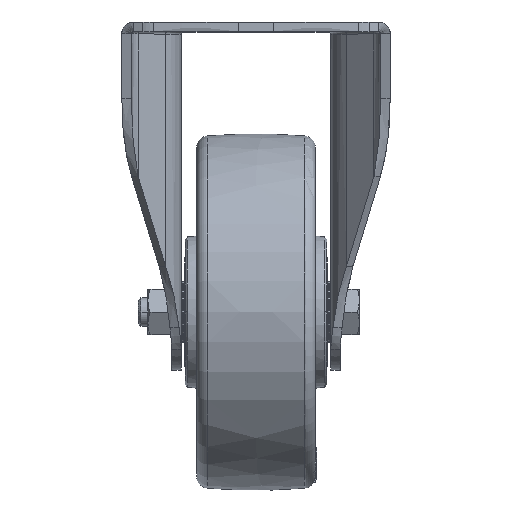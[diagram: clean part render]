
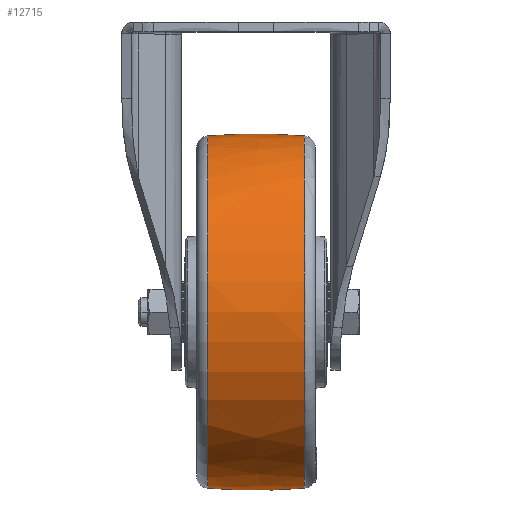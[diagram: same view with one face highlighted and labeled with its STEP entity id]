
A CAD part, top view. The second image highlights one B-rep face of the part: STEP entity #12715.
In plain terms, the highlighted free-form (B-spline) face has degree [3, 3] with [7, 4] control points.
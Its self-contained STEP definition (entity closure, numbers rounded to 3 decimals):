
#84 = CARTESIAN_POINT ( 'NONE',  ( 20.408, 0., 0. ) ) ;
#1518 = CARTESIAN_POINT ( 'NONE',  ( -7.091, -75.153, 4.728 ) ) ;
#2965 = VERTEX_POINT ( 'NONE', #3816 ) ;
#3567 = CARTESIAN_POINT ( 'NONE',  ( 7.091, 75.153, 4.728 ) ) ;
#3734 = ORIENTED_EDGE ( 'NONE', *, *, #24709, .T. ) ;
#3816 = CARTESIAN_POINT ( 'NONE',  ( -20.408, -74.166, 0. ) ) ;
#4803 = EDGE_CURVE ( 'NONE', #2965, #25546, #32110, .T. ) ;
#5018 = DIRECTION ( 'NONE',  ( 0., 0., 1. ) ) ;
#6287 = DIRECTION ( 'NONE',  ( 0.082, -0.997, 0. ) ) ;
#6961 = CARTESIAN_POINT ( 'NONE',  ( -21.223, -45.6, -74.098 ) ) ;
#7235 = EDGE_CURVE ( 'NONE', #34531, #45149, #14606, .T. ) ;
#7454 = CARTESIAN_POINT ( 'NONE',  ( 7.091, -46.34, -75.302 ) ) ;
#8607 = AXIS2_PLACEMENT_3D ( 'NONE', #26513, #5018, #59730 ) ;
#8640 = CARTESIAN_POINT ( 'NONE',  ( -7.091, 78.063, -41.521 ) ) ;
#8879 = CARTESIAN_POINT ( 'NONE',  ( 21.223, 76.815, -40.857 ) ) ;
#12475 = CARTESIAN_POINT ( 'NONE',  ( 7.091, -75.153, 4.728 ) ) ;
#12715 = ADVANCED_FACE ( 'NONE', ( #29897 ), #55349, .T. ) ;
#12937 = CARTESIAN_POINT ( 'NONE',  ( -21.223, 45.6, -74.098 ) ) ;
#14606 = CIRCLE ( 'NONE', #29390, 74.166 ) ;
#17499 = CARTESIAN_POINT ( 'NONE',  ( 20.408, 74.166, 0. ) ) ;
#17527 = DIRECTION ( 'NONE',  ( 0., 0., -1. ) ) ;
#17830 = ORIENTED_EDGE ( 'NONE', *, *, #29915, .F. ) ;
#18447 = AXIS2_PLACEMENT_3D ( 'NONE', #50701, #17527, #6287 ) ;
#20094 = CARTESIAN_POINT ( 'NONE',  ( 21.223, 45.6, -74.098 ) ) ;
#21806 = DIRECTION ( 'NONE',  ( 1., 0., 0. ) ) ;
#23488 = CARTESIAN_POINT ( 'NONE',  ( -7.091, 0., -75.302 ) ) ;
#23714 = CARTESIAN_POINT ( 'NONE',  ( 21.223, -73.951, 4.653 ) ) ;
#24641 = CARTESIAN_POINT ( 'NONE',  ( -21.223, 76.815, -40.857 ) ) ;
#24709 = EDGE_CURVE ( 'NONE', #34531, #2965, #58591, .T. ) ;
#25546 = VERTEX_POINT ( 'NONE', #52957 ) ;
#26513 = CARTESIAN_POINT ( 'NONE',  ( 0., -175., 0. ) ) ;
#27252 = DIRECTION ( 'NONE',  ( 0., -1., 0. ) ) ;
#29390 = AXIS2_PLACEMENT_3D ( 'NONE', #84, #21806, #27252 ) ;
#29414 = CARTESIAN_POINT ( 'NONE',  ( -21.223, 0., -74.098 ) ) ;
#29897 = FACE_OUTER_BOUND ( 'NONE', #34164, .T. ) ;
#29915 = EDGE_CURVE ( 'NONE', #45149, #25546, #59482, .T. ) ;
#30551 = CARTESIAN_POINT ( 'NONE',  ( -7.091, 75.153, 4.728 ) ) ;
#32110 = CIRCLE ( 'NONE', #60615, 74.166 ) ;
#34164 = EDGE_LOOP ( 'NONE', ( #59804, #17830, #40785, #3734 ) ) ;
#34531 = VERTEX_POINT ( 'NONE', #45144 ) ;
#39651 = CARTESIAN_POINT ( 'NONE',  ( 7.091, -78.063, -41.521 ) ) ;
#39888 = CARTESIAN_POINT ( 'NONE',  ( -21.223, -73.951, 4.653 ) ) ;
#40126 = CARTESIAN_POINT ( 'NONE',  ( -7.091, -46.34, -75.302 ) ) ;
#40605 = CARTESIAN_POINT ( 'NONE',  ( -7.091, -78.063, -41.521 ) ) ;
#40785 = ORIENTED_EDGE ( 'NONE', *, *, #7235, .F. ) ;
#40823 = CARTESIAN_POINT ( 'NONE',  ( -21.223, 73.951, 4.653 ) ) ;
#41654 = DIRECTION ( 'NONE',  ( 0., -1., 0. ) ) ;
#45144 = CARTESIAN_POINT ( 'NONE',  ( 20.408, -74.166, 0. ) ) ;
#45149 = VERTEX_POINT ( 'NONE', #17499 ) ;
#45625 = CARTESIAN_POINT ( 'NONE',  ( 21.223, 0., -74.098 ) ) ;
#47413 = DIRECTION ( 'NONE',  ( 1., 0., 0. ) ) ;
#50701 = CARTESIAN_POINT ( 'NONE',  ( 0., 175., 0. ) ) ;
#51138 = CARTESIAN_POINT ( 'NONE',  ( 7.091, 46.34, -75.302 ) ) ;
#52957 = CARTESIAN_POINT ( 'NONE',  ( -20.408, 74.166, 0. ) ) ;
#55349 =( BOUNDED_SURFACE ( )  B_SPLINE_SURFACE ( 3, 3, ( 
 ( #39888, #1518, #12475, #23714 ),
 ( #56646, #40605, #39651, #62350 ),
 ( #6961, #40126, #7454, #56164 ),
 ( #29414, #23488, #61662, #45625 ),
 ( #12937, #56892, #51138, #20094 ),
 ( #24641, #8640, #62831, #8879 ),
 ( #40823, #30551, #3567, #68553 ) ),
 .UNSPECIFIED., .F., .F., .T. ) 
 B_SPLINE_SURFACE_WITH_KNOTS ( ( 4, 3, 4 ),
 ( 4, 4 ),
 ( 0., 1., 2. ),
 ( 0., 1. ),
 .UNSPECIFIED. ) 
 GEOMETRIC_REPRESENTATION_ITEM ( )  RATIONAL_B_SPLINE_SURFACE ( (
 ( 1.189, 1.187, 1.187, 1.189),
 ( 0.939, 0.937, 0.937, 0.939),
 ( 0.939, 0.937, 0.937, 0.939),
 ( 1.189, 1.187, 1.187, 1.189),
 ( 0.939, 0.937, 0.937, 0.939),
 ( 0.939, 0.937, 0.937, 0.939),
 ( 1.189, 1.187, 1.187, 1.189) ) ) 
 REPRESENTATION_ITEM ( '' )  SURFACE ( )  );
#56164 = CARTESIAN_POINT ( 'NONE',  ( 21.223, -45.6, -74.098 ) ) ;
#56646 = CARTESIAN_POINT ( 'NONE',  ( -21.223, -76.815, -40.857 ) ) ;
#56892 = CARTESIAN_POINT ( 'NONE',  ( -7.091, 46.34, -75.302 ) ) ;
#58591 = CIRCLE ( 'NONE', #18447, 250. ) ;
#59482 = CIRCLE ( 'NONE', #8607, 250. ) ;
#59730 = DIRECTION ( 'NONE',  ( 0.082, 0.997, 0. ) ) ;
#59804 = ORIENTED_EDGE ( 'NONE', *, *, #4803, .T. ) ;
#60615 = AXIS2_PLACEMENT_3D ( 'NONE', #63420, #47413, #41654 ) ;
#61662 = CARTESIAN_POINT ( 'NONE',  ( 7.091, 0., -75.302 ) ) ;
#62350 = CARTESIAN_POINT ( 'NONE',  ( 21.223, -76.815, -40.857 ) ) ;
#62831 = CARTESIAN_POINT ( 'NONE',  ( 7.091, 78.063, -41.521 ) ) ;
#63420 = CARTESIAN_POINT ( 'NONE',  ( -20.408, 0., 0. ) ) ;
#68553 = CARTESIAN_POINT ( 'NONE',  ( 21.223, 73.951, 4.653 ) ) ;
